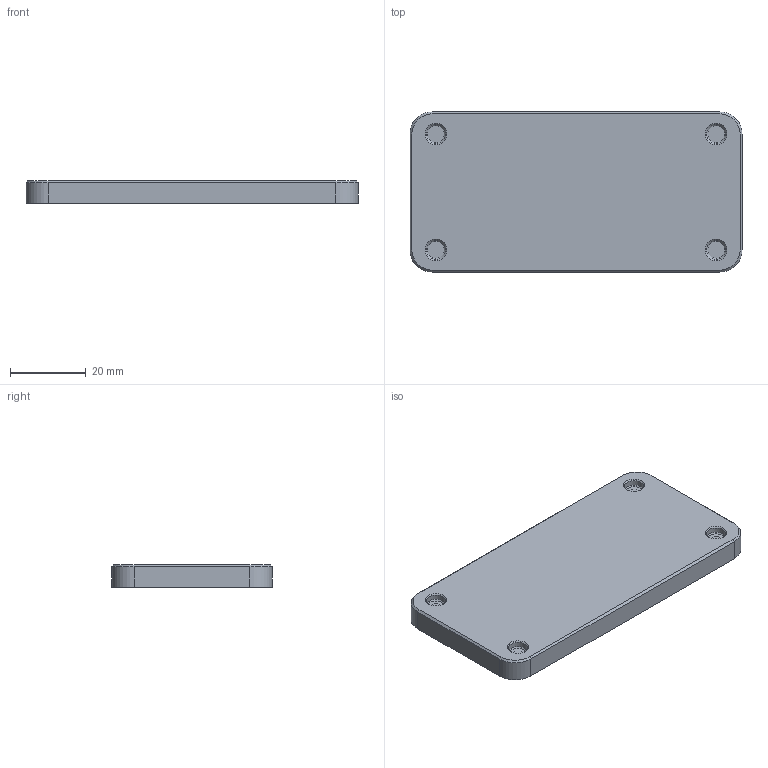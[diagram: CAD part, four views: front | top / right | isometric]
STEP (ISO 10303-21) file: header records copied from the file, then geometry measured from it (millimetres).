
FILE_DESCRIPTION(/* description */ ('','CAx-IF Rec.Pracs.---Representation and Presentation of Product Manufacturing Information (PMI)---4.0---2014-10-13'),/* implementation_level */ '2;1');
FILE_NAME(/* name */ 'Lid.step',/* time_stamp */ '2025-01-06T17:56:06+01:00',/* author */ (''),/* organization */ (''),/* preprocessor_version */ 'ST-DEVELOPER v20',/* originating_system */ 'Autodesk Translation Framework v13.20.0.188',/* authorisation */ '');
FILE_SCHEMA (('AP242_MANAGED_MODEL_BASED_3D_ENGINEERING_MIM_LF { 1 0 10303 442 1 1 4 }'));
Length unit declared in the file: millimetre
Products named in the file (1): Lid
Bounding box: 87.68 x 42.28 x 6 mm (x, y, z)
Volume: 9211.3 mm3; surface area: 10175.4 mm2
Topology: 1 solids, 1 shells, 72 faces, 158 edges, 98 vertices
Faces by surface type: plane 32, cylinder 24, cone 16
Full cylindrical faces by diameter (mm): 2.5 x4, 5.1 x4, 6.18 x4
Entity records: 2021 total; most frequent: CARTESIAN_POINT 381, DIRECTION 354, ORIENTED_EDGE 316, EDGE_CURVE 158, AXIS2_PLACEMENT_3D 135, VERTEX_POINT 98, LINE 84, VECTOR 84
